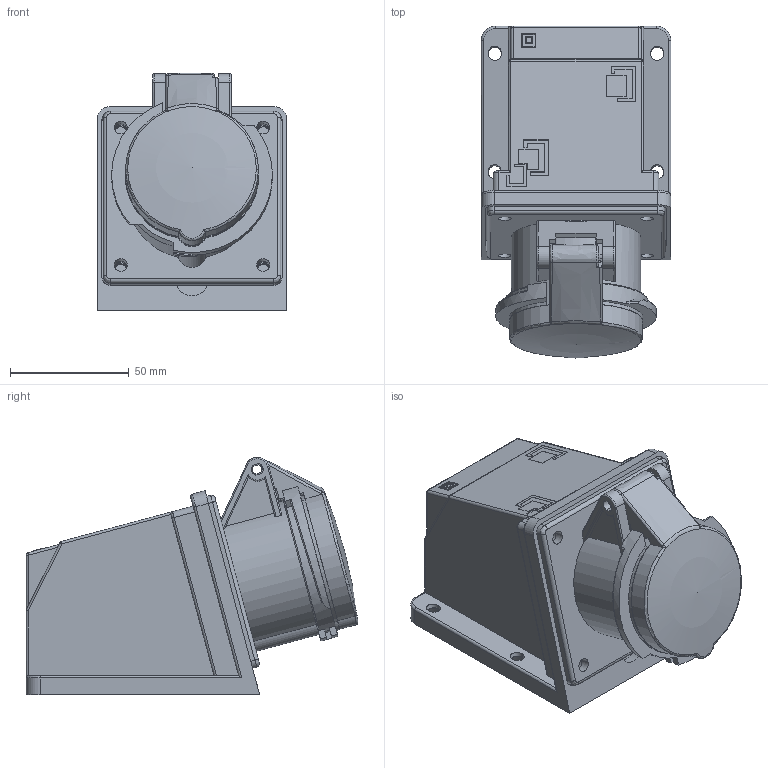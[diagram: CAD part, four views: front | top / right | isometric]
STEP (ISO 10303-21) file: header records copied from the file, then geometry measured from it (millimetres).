
FILE_DESCRIPTION(('FreeCAD Model'),'2;1');
FILE_NAME('Open CASCADE Shape Model','2026-02-04T09:16:24',(''),(''), 'Open CASCADE STEP processor 7.8','FreeCAD','Unknown');
FILE_SCHEMA(('AUTOMOTIVE_DESIGN { 1 0 10303 214 1 1 1 1 }'));
Length unit declared in the file: millimetre
Products named in the file (6): TL3S16443; Terminais; Corpo tomada; Tampa; Estrutura corpo; Base interna
Assembly tree (5 placements, depth 2):
  TL3S16443
    Terminais
    Corpo tomada
    Tampa
    Estrutura corpo
    Base interna
Bounding box: 80 x 139.98 x 100.01 mm (x, y, z)
Volume: 458842.9 mm3; surface area: 105946.5 mm2
Topology: 5 solids, 14 shells, 1111 faces, 2909 edges, 1889 vertices
Faces by surface type: plane 640, cylinder 326, torus 69, bspline 39, sphere 20, cone 17
Full cylindrical faces by diameter (mm): 7.5 x1
Entity records: 38231 total; most frequent: CARTESIAN_POINT 10360, ORIENTED_EDGE 5816, DIRECTION 5758, EDGE_CURVE 2908, AXIS2_PLACEMENT_3D 1954, VERTEX_POINT 1889, LINE 1850, VECTOR 1850
